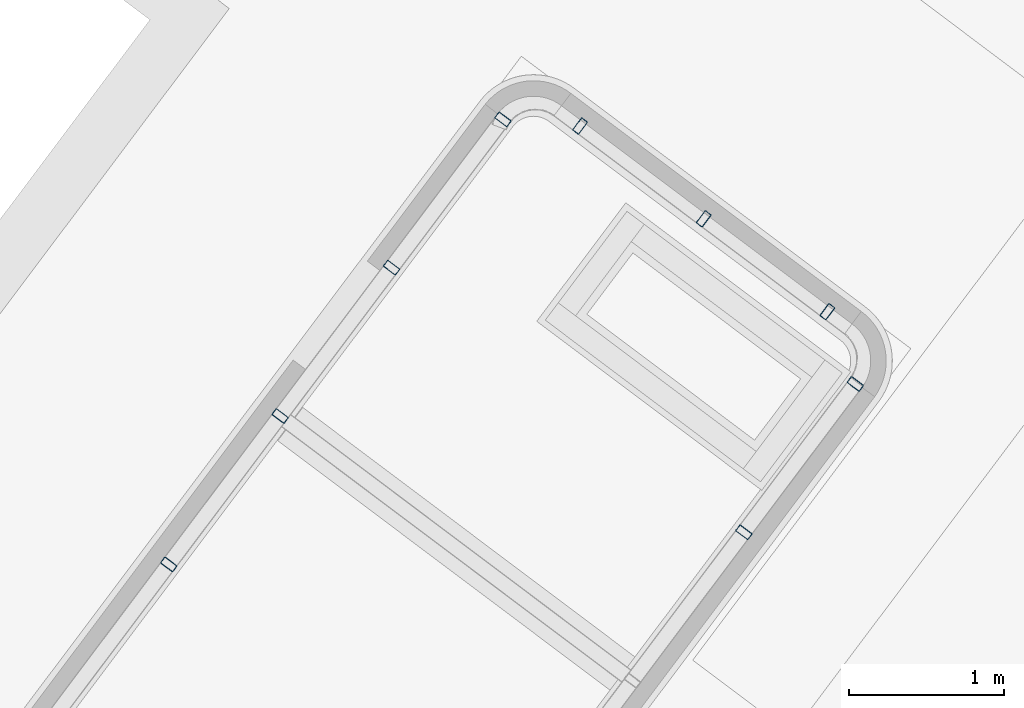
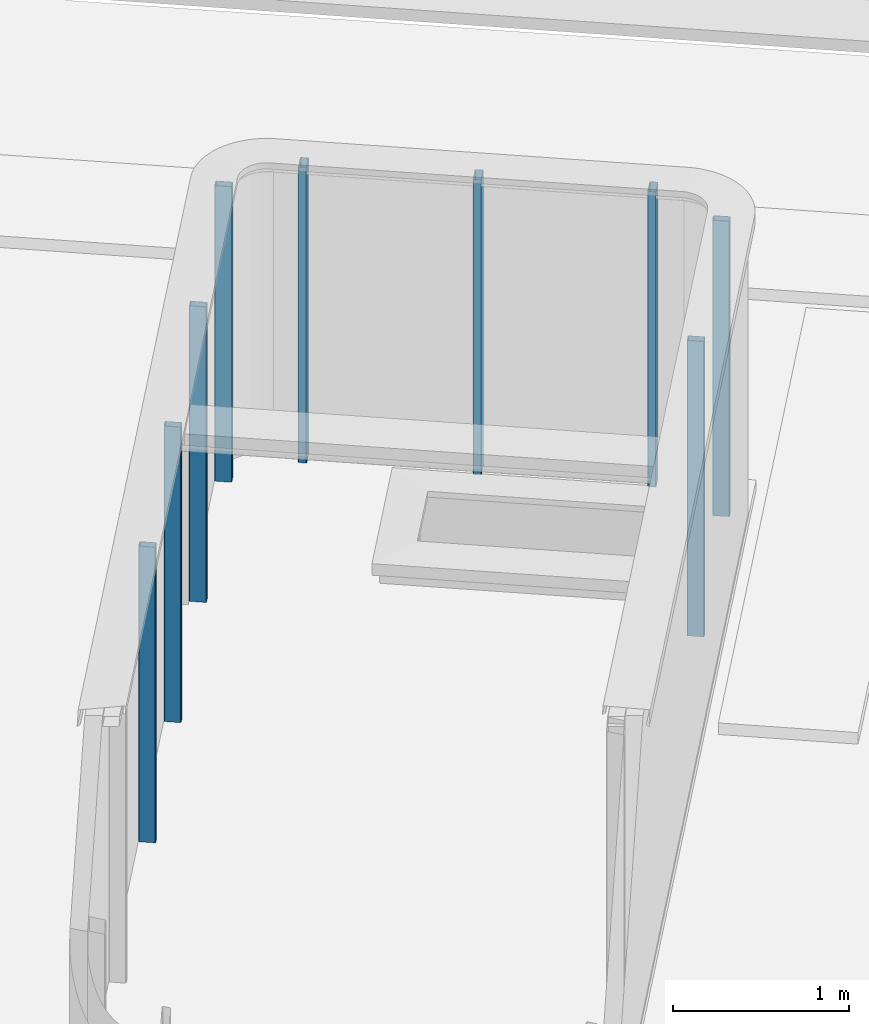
# One storey, part 12 of 28: 9 columns.
"""IFC2X3 building model written with IfcOpenShell, lengths in metres."""

from ifc_helpers import new_model, entity, si_unit, converted_unit, derived_unit, direction, frame, frame_2d, origin, place, context, subcontext, project, spatial, polyline, circle_curve, parameter, trimmed, segment, composite_curve, outline, extrude, source, transform, mapped, material, type_object, type_shapes, element, save


model = new_model("IFC2X3")

# Units and contexts
model_context = context("Model", 3, precision=1e-05, world=origin(), true_north=direction((6.123031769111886e-17, 1.0)))
body_context = subcontext(model_context, "Body", "Model", "MODEL_VIEW")
ifc_project = project(units=[si_unit("LENGTHUNIT", "METRE"), si_unit("AREAUNIT", "SQUARE_METRE"), si_unit("VOLUMEUNIT", "CUBIC_METRE"), converted_unit("PLANEANGLEUNIT", "DEGREE", entity("IfcRatioMeasure", 0.017453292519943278), si_unit("PLANEANGLEUNIT", "RADIAN"), dimensions=[0, 0, 0, 0, 0, 0, 0]), si_unit("MASSUNIT", "GRAM", prefix="KILO"), derived_unit("MASSDENSITYUNIT", [(si_unit("MASSUNIT", "GRAM", prefix="KILO"), 1), (si_unit("LENGTHUNIT", "METRE"), -3)]), derived_unit("IONCONCENTRATIONUNIT", [(si_unit("MASSUNIT", "GRAM", prefix="KILO"), 1), (si_unit("LENGTHUNIT", "METRE"), -3)]), derived_unit("MOMENTOFINERTIAUNIT", [(si_unit("LENGTHUNIT", "METRE"), 4)]), si_unit("TIMEUNIT", "SECOND"), si_unit("FREQUENCYUNIT", "HERTZ"), si_unit("THERMODYNAMICTEMPERATUREUNIT", "DEGREE_CELSIUS"), derived_unit("THERMALTRANSMITTANCEUNIT", [(si_unit("MASSUNIT", "GRAM", prefix="KILO"), 1), (si_unit("THERMODYNAMICTEMPERATUREUNIT", "KELVIN"), -1), (si_unit("TIMEUNIT", "SECOND"), -3)]), derived_unit("THERMALCONDUCTANCEUNIT", [(si_unit("MASSUNIT", "GRAM", prefix="KILO"), 1), (si_unit("THERMODYNAMICTEMPERATUREUNIT", "KELVIN"), -1), (si_unit("TIMEUNIT", "SECOND"), -3), (si_unit("LENGTHUNIT", "METRE"), 1)]), derived_unit("VOLUMETRICFLOWRATEUNIT", [(si_unit("LENGTHUNIT", "METRE"), 3), (si_unit("TIMEUNIT", "SECOND"), -1)]), derived_unit("MASSFLOWRATEUNIT", [(si_unit("MASSUNIT", "GRAM", prefix="KILO"), 1), (si_unit("TIMEUNIT", "SECOND"), -1)]), derived_unit("ROTATIONALFREQUENCYUNIT", [(si_unit("TIMEUNIT", "SECOND"), -1)]), si_unit("ELECTRICCURRENTUNIT", "AMPERE"), si_unit("ELECTRICVOLTAGEUNIT", "VOLT"), si_unit("POWERUNIT", "WATT"), si_unit("FORCEUNIT", "NEWTON", prefix="KILO"), si_unit("ILLUMINANCEUNIT", "LUX"), si_unit("LUMINOUSFLUXUNIT", "LUMEN"), si_unit("LUMINOUSINTENSITYUNIT", "CANDELA"), derived_unit("USERDEFINED", [(si_unit("MASSUNIT", "GRAM", prefix="KILO"), -1), (si_unit("LENGTHUNIT", "METRE"), -2), (si_unit("TIMEUNIT", "SECOND"), 3), (si_unit("LUMINOUSFLUXUNIT", "LUMEN"), 1)]), derived_unit("USERDEFINED", [(si_unit("MASSUNIT", "GRAM", prefix="KILO"), 1), (si_unit("TIMEUNIT", "SECOND"), -3), (si_unit("LENGTHUNIT", "METRE"), 3), (si_unit("ELECTRICCURRENTUNIT", "AMPERE"), -2)]), derived_unit("SOUNDPOWERUNIT", [(si_unit("MASSUNIT", "GRAM", prefix="KILO"), 1), (si_unit("TIMEUNIT", "SECOND"), -3), (si_unit("LENGTHUNIT", "METRE"), 2)]), derived_unit("SOUNDPRESSUREUNIT", [(si_unit("MASSUNIT", "GRAM", prefix="KILO"), 1), (si_unit("LENGTHUNIT", "METRE"), -1), (si_unit("TIMEUNIT", "SECOND"), -2)]), derived_unit("LINEARVELOCITYUNIT", [(si_unit("LENGTHUNIT", "METRE"), 1), (si_unit("TIMEUNIT", "SECOND"), -1)]), si_unit("PRESSUREUNIT", "PASCAL"), derived_unit("USERDEFINED", [(si_unit("MASSUNIT", "GRAM", prefix="KILO"), 1), (si_unit("LENGTHUNIT", "METRE"), -2), (si_unit("TIMEUNIT", "SECOND"), -2)]), derived_unit("LINEARFORCEUNIT", [(si_unit("MASSUNIT", "GRAM", prefix="KILO"), 1), (si_unit("TIMEUNIT", "SECOND"), -2)]), derived_unit("PLANARFORCEUNIT", [(si_unit("MASSUNIT", "GRAM", prefix="KILO"), 1), (si_unit("LENGTHUNIT", "METRE"), -1), (si_unit("TIMEUNIT", "SECOND"), -2)]), derived_unit("SPECIFICHEATCAPACITYUNIT", [(si_unit("THERMODYNAMICTEMPERATUREUNIT", "KELVIN"), -1), (si_unit("LENGTHUNIT", "METRE"), 2), (si_unit("TIMEUNIT", "SECOND"), -2)]), derived_unit("HEATINGVALUEUNIT", [(si_unit("LENGTHUNIT", "METRE"), 2), (si_unit("TIMEUNIT", "SECOND"), -2)]), derived_unit("VAPORPERMEABILITYUNIT", [(si_unit("LENGTHUNIT", "METRE"), -1), (si_unit("TIMEUNIT", "SECOND"), 1)]), derived_unit("DYNAMICVISCOSITYUNIT", [(si_unit("MASSUNIT", "GRAM", prefix="KILO"), 1), (si_unit("TIMEUNIT", "SECOND"), -1), (si_unit("LENGTHUNIT", "METRE"), -1)]), derived_unit("THERMALEXPANSIONCOEFFICIENTUNIT", [(si_unit("THERMODYNAMICTEMPERATUREUNIT", "KELVIN"), -1)]), derived_unit("MODULUSOFELASTICITYUNIT", [(si_unit("MASSUNIT", "GRAM", prefix="KILO"), 1), (si_unit("LENGTHUNIT", "METRE"), -1), (si_unit("TIMEUNIT", "SECOND"), -2)]), derived_unit("ISOTHERMALMOISTURECAPACITYUNIT", [(si_unit("LENGTHUNIT", "METRE"), 3), (si_unit("MASSUNIT", "GRAM", prefix="KILO"), -1)]), derived_unit("MOISTUREDIFFUSIVITYUNIT", [(si_unit("TIMEUNIT", "SECOND"), -1), (si_unit("LENGTHUNIT", "METRE"), 2)])], contexts=[model_context])

# Site, building, storey
site_placement = place(None, frame((0.0, 0.0, 235.0), z_axis=(0.0, 0.0, 1.0), x_axis=(-0.7996477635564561, 0.6004693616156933, 0.0)))
site = spatial("IfcSite", under=ifc_project, at=site_placement, Name="Default", CompositionType="ELEMENT")
building_placement = place(site_placement, origin())
building = spatial("IfcBuilding", under=site, at=building_placement, CompositionType="ELEMENT")
storey_placement = place(building_placement, frame((0.0, 0.0, 3.400000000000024)))
storey = spatial("IfcBuildingStorey", under=building, at=storey_placement, Name="PC- Coberta STR", CompositionType="ELEMENT", Elevation=3.400000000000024)

# Columns
ifc_material = material(Name="Metal - Acero - 345 MPa")
column_type = type_object("IfcColumnType", Name="STR- P- Acer- RHS- Rectangular- T1:100 x 50RHS", PredefinedType="COLUMN", material=ifc_material)
shared_shape = source(origin(), body_context, "Body", "SweptSolid", [
    extrude(outline(composite_curve([segment(polyline([(-0.01900000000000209, -0.04999999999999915), (0.019000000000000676, -0.04999999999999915)]), True, "CONTINUOUS"), segment(trimmed(circle_curve(frame_2d((0.019000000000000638, -0.04400000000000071), x_axis=(-1.0, 0.0)), 0.005999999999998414), [parameter(90.00000000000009)], [parameter(180.0000000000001)], True, "PARAMETER"), True, "CONTINUOUS"), segment(polyline([(0.024999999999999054, -0.044000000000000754), (0.02499999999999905, 0.044000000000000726)]), True, "CONTINUOUS"), segment(trimmed(circle_curve(frame_2d((0.018999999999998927, 0.044000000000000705), x_axis=(-1.0, 0.0)), 0.006000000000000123), [parameter(179.9999999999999)], [parameter(269.99999999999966)], True, "PARAMETER"), True, "CONTINUOUS"), segment(polyline([(0.018999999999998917, 0.05000000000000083), (-0.01899999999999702, 0.050000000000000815)]), True, "CONTINUOUS"), segment(trimmed(circle_curve(frame_2d((-0.018999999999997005, 0.043999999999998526), x_axis=(-1.0, 0.0)), 0.006000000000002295), [parameter(269.99999999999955)], [parameter(359.9999999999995)], True, "PARAMETER"), True, "CONTINUOUS"), segment(polyline([(-0.024999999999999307, 0.04399999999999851), (-0.024999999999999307, -0.04400000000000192)]), True, "CONTINUOUS"), segment(trimmed(circle_curve(frame_2d((-0.019000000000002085, -0.04400000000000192), x_axis=(-1.0, 0.0)), 0.005999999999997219), [parameter(359.9999999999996)], [parameter(89.99999999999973)], True, "PARAMETER"), True, "CONTINUOUS")], self_intersect=False), holes=[composite_curve([segment(trimmed(circle_curve(frame_2d((-0.019000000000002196, -0.044000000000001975), x_axis=(-1.0, 0.0)), 0.0029999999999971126), [parameter(0.0)], [parameter(90.00000000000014)], True, "PARAMETER"), False, "CONTINUOUS"), segment(polyline([(-0.021999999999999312, -0.044000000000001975), (-0.021999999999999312, 0.04400000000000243)]), True, "CONTINUOUS"), segment(trimmed(circle_curve(frame_2d((-0.019000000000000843, 0.04400000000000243), x_axis=(-1.0, 0.0)), 0.00299999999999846), [parameter(269.99999999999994)], [parameter(0.0)], True, "PARAMETER"), False, "CONTINUOUS"), segment(polyline([(-0.01900000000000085, 0.0470000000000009), (0.01899999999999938, 0.04700000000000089)]), True, "CONTINUOUS"), segment(trimmed(circle_curve(frame_2d((0.018999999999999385, 0.04399999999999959), x_axis=(-1.0, 0.0)), 0.0030000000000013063), [parameter(179.99999999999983)], [parameter(270.0)], True, "PARAMETER"), False, "CONTINUOUS"), segment(polyline([(0.022000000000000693, 0.04399999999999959), (0.022000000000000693, -0.04399999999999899)]), True, "CONTINUOUS"), segment(trimmed(circle_curve(frame_2d((0.019000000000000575, -0.043999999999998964), x_axis=(-1.0, 0.0)), 0.0030000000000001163), [parameter(90.00000000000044)], [parameter(180.0000000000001)], True, "PARAMETER"), False, "CONTINUOUS"), segment(polyline([(0.019000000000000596, -0.04699999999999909), (-0.019000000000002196, -0.04699999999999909)]), True, "CONTINUOUS")], self_intersect=False)]), frame((0.02658749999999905, 0.051587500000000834, 0.0), z_axis=(0.0, 0.0, 1.0), x_axis=(-1.0, 0.0, 0.0)), (0.0, 0.0, 1.0), 2.05),
])
type_shapes(column_type, [shared_shape])
for number, where, z_axis, x_axis, name in (
    (1, (47.108458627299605, -33.66767308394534, 0.4), (0.0, 0.0, 1.0), (0.0, -1.0, 0.0), "STR- P- Acer- RHS- Rectangular- T1:100 x 50RHS"),
    (2, (47.108458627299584, -34.86767308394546, 0.4), (0.0, 0.0, 1.0), (0.0, -1.0, 0.0), "STR- P- Acer- RHS- Rectangular- T1:100 x 50RHS"),
    (3, (47.10845862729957, -36.06767308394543, 0.4), (0.0, 0.0, 1.0), (0.0, -1.0, 0.0), "STR- P- Acer- RHS- Rectangular- T1:100 x 50RHS"),
    (4, (47.10845862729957, -37.26767308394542, 0.4), (0.0, 0.0, 1.0), (0.0, -1.0, 0.0), "STR- P- Acer- RHS- Rectangular- T1:100 x 50RHS"),
    (5, (46.761633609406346, -37.50767305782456, 0.4), (0.0, 0.0, 1.0), (-1.0, 0.0, 0.0), "STR- P- Acer- RHS- Rectangular- T1:100 x 50RHS"),
    (6, (45.76163360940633, -37.50767305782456, 0.4), (0.0, 0.0, 1.0), (-1.0, 0.0, 0.0), "STR- P- Acer- RHS- Rectangular- T1:100 x 50RHS"),
    (7, (44.76163360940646, -37.50767305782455, 0.4), (0.0, 0.0, 1.0), (-1.0, 0.0, 0.0), "STR- P- Acer- RHS- Rectangular- T1:100 x 50RHS"),
    (8, (44.25845855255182, -36.0676730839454, 0.4), (0.0, 0.0, 1.0), (0.0, -1.0, 0.0), "STR- P- Acer- RHS- Rectangular- T1:100 x 50RHS"),
    (9, (44.258458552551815, -37.2676730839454, 0.4), (0.0, 0.0, 1.0), (0.0, -1.0, 0.0), "STR- P- Acer- RHS- Rectangular- T1:100 x 50RHS"),
):
    element("IfcColumn", number, at=place(storey_placement, frame(where, z_axis=z_axis, x_axis=x_axis)), inside=storey, type_object=column_type, material=ifc_material, Name=name, ObjectType="STR- P- Acer- RHS- Rectangular- T1:100 x 50RHS", context=body_context, shape_type="MappedRepresentation", body=[
        mapped(shared_shape, transform((0.0, 0.0, 0.0), scale=1.0)),
    ])

save(model, "model.ifc")
